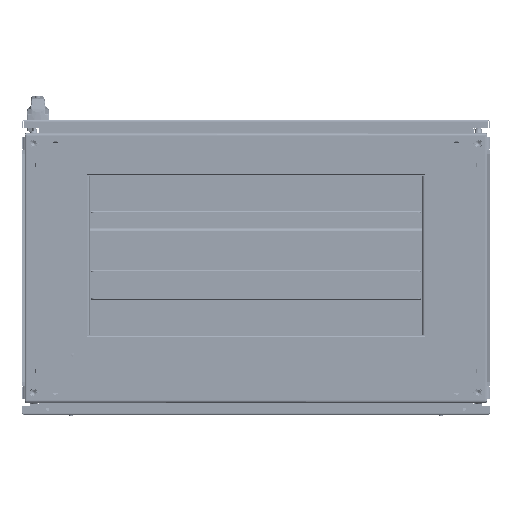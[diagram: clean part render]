
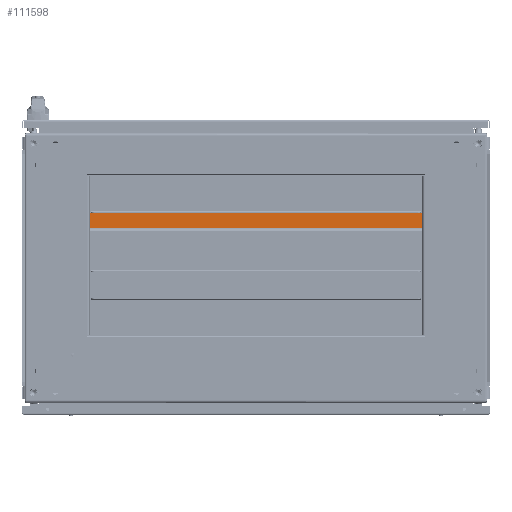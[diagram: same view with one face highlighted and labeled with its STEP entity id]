
A CAD part, front view. The second image highlights one B-rep face of the part: STEP entity #111598.
In plain terms, the highlighted planar face has unit normal (0, -1, 0).
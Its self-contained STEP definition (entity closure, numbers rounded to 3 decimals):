
#753 = DIRECTION ( 'NONE',  ( 0., 1., 0. ) ) ;
#2112 = VERTEX_POINT ( 'NONE', #83030 ) ;
#2276 = DIRECTION ( 'NONE',  ( -1., 0., 0. ) ) ;
#3542 = CARTESIAN_POINT ( 'NONE',  ( -110.681, 2.3, -615. ) ) ;
#9284 = EDGE_CURVE ( 'NONE', #88690, #100552, #153984, .T. ) ;
#16549 = LINE ( 'NONE', #204869, #148962 ) ;
#17185 = ORIENTED_EDGE ( 'NONE', *, *, #53151, .T. ) ;
#17884 = CARTESIAN_POINT ( 'NONE',  ( -75.681, 2.3, -632. ) ) ;
#18230 = CARTESIAN_POINT ( 'NONE',  ( -130.681, 2.3, -610. ) ) ;
#18765 = VERTEX_POINT ( 'NONE', #57113 ) ;
#19171 = EDGE_CURVE ( 'NONE', #55318, #130097, #222088, .T. ) ;
#19199 = CARTESIAN_POINT ( 'NONE',  ( -105.681, 2.3, -627. ) ) ;
#20309 = VERTEX_POINT ( 'NONE', #103298 ) ;
#21345 = DIRECTION ( 'NONE',  ( 0., 0., -1. ) ) ;
#24859 = AXIS2_PLACEMENT_3D ( 'NONE', #34669, #155490, #52059 ) ;
#26273 = VERTEX_POINT ( 'NONE', #126483 ) ;
#27273 = AXIS2_PLACEMENT_3D ( 'NONE', #143677, #40187, #161061 ) ;
#28314 = ORIENTED_EDGE ( 'NONE', *, *, #192860, .T. ) ;
#34669 = CARTESIAN_POINT ( 'NONE',  ( -110.681, 2.3, -12. ) ) ;
#35623 = DIRECTION ( 'NONE',  ( -1., 0., 0. ) ) ;
#35636 = CARTESIAN_POINT ( 'NONE',  ( -75.681, 2.3, 0. ) ) ;
#36755 = DIRECTION ( 'NONE',  ( 0., -1., 0. ) ) ;
#40187 = DIRECTION ( 'NONE',  ( 0., -1., 0. ) ) ;
#42884 = AXIS2_PLACEMENT_3D ( 'NONE', #104271, #753, #121669 ) ;
#47795 = CARTESIAN_POINT ( 'NONE',  ( -75.681, 2.3, -632. ) ) ;
#48207 = ORIENTED_EDGE ( 'NONE', *, *, #9284, .F. ) ;
#52059 = DIRECTION ( 'NONE',  ( -1., 0., 0. ) ) ;
#53151 = EDGE_CURVE ( 'NONE', #159379, #20309, #72810, .T. ) ;
#55318 = VERTEX_POINT ( 'NONE', #19199 ) ;
#57113 = CARTESIAN_POINT ( 'NONE',  ( -135.681, 2.3, -610. ) ) ;
#58748 = CARTESIAN_POINT ( 'NONE',  ( -75.681, 2.3, -615. ) ) ;
#67650 = EDGE_CURVE ( 'NONE', #18765, #100552, #191862, .T. ) ;
#70032 = VECTOR ( 'NONE', #187708, 1000. ) ;
#70528 = ORIENTED_EDGE ( 'NONE', *, *, #127294, .T. ) ;
#72627 = ORIENTED_EDGE ( 'NONE', *, *, #205349, .T. ) ;
#72810 = CIRCLE ( 'NONE', #24859, 5. ) ;
#77184 = ORIENTED_EDGE ( 'NONE', *, *, #173029, .T. ) ;
#78412 = CIRCLE ( 'NONE', #42884, 5. ) ;
#82586 = PLANE ( 'NONE',  #91003 ) ;
#82777 = VERTEX_POINT ( 'NONE', #140153 ) ;
#83030 = CARTESIAN_POINT ( 'NONE',  ( -75.681, 2.3, 0. ) ) ;
#83588 = CIRCLE ( 'NONE', #103521, 5. ) ;
#84395 = EDGE_CURVE ( 'NONE', #18765, #106085, #155620, .T. ) ;
#84406 = ORIENTED_EDGE ( 'NONE', *, *, #126320, .T. ) ;
#87044 = CARTESIAN_POINT ( 'NONE',  ( -105.681, 2.3, -620. ) ) ;
#87370 = CARTESIAN_POINT ( 'NONE',  ( -130.681, 2.3, -17. ) ) ;
#88649 = VERTEX_POINT ( 'NONE', #209928 ) ;
#88690 = VERTEX_POINT ( 'NONE', #3542 ) ;
#89465 = VECTOR ( 'NONE', #156459, 1000. ) ;
#91003 = AXIS2_PLACEMENT_3D ( 'NONE', #47795, #203580, #99969 ) ;
#96798 = AXIS2_PLACEMENT_3D ( 'NONE', #209393, #105806, #2276 ) ;
#99969 = DIRECTION ( 'NONE',  ( -1., 0., 0. ) ) ;
#100523 = DIRECTION ( 'NONE',  ( 0., 0., 1. ) ) ;
#100552 = VERTEX_POINT ( 'NONE', #220759 ) ;
#101475 = CARTESIAN_POINT ( 'NONE',  ( -105.681, 2.3, -632. ) ) ;
#103298 = CARTESIAN_POINT ( 'NONE',  ( -110.681, 2.3, -17. ) ) ;
#103521 = AXIS2_PLACEMENT_3D ( 'NONE', #140260, #36755, #157626 ) ;
#104271 = CARTESIAN_POINT ( 'NONE',  ( -110.681, 2.3, -620. ) ) ;
#105806 = DIRECTION ( 'NONE',  ( 0., -1., 0. ) ) ;
#106085 = VERTEX_POINT ( 'NONE', #117056 ) ;
#111023 = CARTESIAN_POINT ( 'NONE',  ( -105.681, 2.3, -5. ) ) ;
#111598 = ADVANCED_FACE ( 'NONE', ( #151901 ), #82586, .F. ) ;
#112014 = CARTESIAN_POINT ( 'NONE',  ( -105.681, 2.3, -12. ) ) ;
#113296 = ORIENTED_EDGE ( 'NONE', *, *, #174015, .T. ) ;
#113782 = CIRCLE ( 'NONE', #27273, 5. ) ;
#113897 = VECTOR ( 'NONE', #118886, 1000. ) ;
#116318 = CIRCLE ( 'NONE', #96798, 5. ) ;
#116701 = ORIENTED_EDGE ( 'NONE', *, *, #67650, .T. ) ;
#117056 = CARTESIAN_POINT ( 'NONE',  ( -135.681, 2.3, -22. ) ) ;
#118886 = DIRECTION ( 'NONE',  ( 0., 0., 1. ) ) ;
#121669 = DIRECTION ( 'NONE',  ( -1., 0., 0. ) ) ;
#124635 = LINE ( 'NONE', #194442, #205760 ) ;
#126320 = EDGE_CURVE ( 'NONE', #218230, #106085, #116318, .T. ) ;
#126483 = CARTESIAN_POINT ( 'NONE',  ( -100.681, 2.3, -632. ) ) ;
#127294 = EDGE_CURVE ( 'NONE', #20309, #218230, #167217, .T. ) ;
#130097 = VERTEX_POINT ( 'NONE', #87044 ) ;
#134473 = CARTESIAN_POINT ( 'NONE',  ( -135.681, 2.3, -632. ) ) ;
#139093 = DIRECTION ( 'NONE',  ( 0., -1., 0. ) ) ;
#140153 = CARTESIAN_POINT ( 'NONE',  ( -100.681, 2.3, 0. ) ) ;
#140260 = CARTESIAN_POINT ( 'NONE',  ( -100.681, 2.3, -5. ) ) ;
#143677 = CARTESIAN_POINT ( 'NONE',  ( -100.681, 2.3, -627. ) ) ;
#148962 = VECTOR ( 'NONE', #100523, 1000. ) ;
#149205 = LINE ( 'NONE', #17884, #154625 ) ;
#151901 = FACE_OUTER_BOUND ( 'NONE', #192177, .T. ) ;
#152845 = CARTESIAN_POINT ( 'NONE',  ( -75.681, 2.3, -17. ) ) ;
#153984 = LINE ( 'NONE', #58748, #159452 ) ;
#154625 = VECTOR ( 'NONE', #224255, 1000. ) ;
#155490 = DIRECTION ( 'NONE',  ( 0., 1., 0. ) ) ;
#155620 = LINE ( 'NONE', #134473, #201733 ) ;
#156459 = DIRECTION ( 'NONE',  ( -1., 0., 0. ) ) ;
#157626 = DIRECTION ( 'NONE',  ( -1., 0., 0. ) ) ;
#159379 = VERTEX_POINT ( 'NONE', #112014 ) ;
#159452 = VECTOR ( 'NONE', #179625, 1000. ) ;
#161061 = DIRECTION ( 'NONE',  ( -1., 0., 0. ) ) ;
#164296 = EDGE_CURVE ( 'NONE', #2112, #82777, #181411, .T. ) ;
#167217 = LINE ( 'NONE', #152845, #70032 ) ;
#169192 = DIRECTION ( 'NONE',  ( 0., 0., 1. ) ) ;
#171648 = VERTEX_POINT ( 'NONE', #111023 ) ;
#172077 = EDGE_CURVE ( 'NONE', #88649, #26273, #149205, .T. ) ;
#173029 = EDGE_CURVE ( 'NONE', #171648, #159379, #124635, .T. ) ;
#173074 = EDGE_CURVE ( 'NONE', #55318, #26273, #113782, .T. ) ;
#174015 = EDGE_CURVE ( 'NONE', #82777, #171648, #83588, .T. ) ;
#177033 = ORIENTED_EDGE ( 'NONE', *, *, #84395, .F. ) ;
#179625 = DIRECTION ( 'NONE',  ( -1., 0., 0. ) ) ;
#181411 = LINE ( 'NONE', #35636, #89465 ) ;
#187708 = DIRECTION ( 'NONE',  ( -1., 0., 0. ) ) ;
#191801 = ORIENTED_EDGE ( 'NONE', *, *, #164296, .T. ) ;
#191862 = CIRCLE ( 'NONE', #203121, 5. ) ;
#192177 = EDGE_LOOP ( 'NONE', ( #177033, #116701, #48207, #72627, #194410, #198284, #201125, #28314, #191801, #113296, #77184, #17185, #70528, #84406 ) ) ;
#192860 = EDGE_CURVE ( 'NONE', #88649, #2112, #16549, .T. ) ;
#194410 = ORIENTED_EDGE ( 'NONE', *, *, #19171, .F. ) ;
#194442 = CARTESIAN_POINT ( 'NONE',  ( -105.681, 2.3, -632. ) ) ;
#198284 = ORIENTED_EDGE ( 'NONE', *, *, #173074, .T. ) ;
#201125 = ORIENTED_EDGE ( 'NONE', *, *, #172077, .F. ) ;
#201733 = VECTOR ( 'NONE', #169192, 1000. ) ;
#203121 = AXIS2_PLACEMENT_3D ( 'NONE', #18230, #139093, #35623 ) ;
#203580 = DIRECTION ( 'NONE',  ( 0., 1., 0. ) ) ;
#204869 = CARTESIAN_POINT ( 'NONE',  ( -75.681, 2.3, -632. ) ) ;
#205349 = EDGE_CURVE ( 'NONE', #88690, #130097, #78412, .T. ) ;
#205760 = VECTOR ( 'NONE', #21345, 1000. ) ;
#209393 = CARTESIAN_POINT ( 'NONE',  ( -130.681, 2.3, -22. ) ) ;
#209928 = CARTESIAN_POINT ( 'NONE',  ( -75.681, 2.3, -632. ) ) ;
#218230 = VERTEX_POINT ( 'NONE', #87370 ) ;
#220759 = CARTESIAN_POINT ( 'NONE',  ( -130.681, 2.3, -615. ) ) ;
#222088 = LINE ( 'NONE', #101475, #113897 ) ;
#224255 = DIRECTION ( 'NONE',  ( -1., 0., 0. ) ) ;
